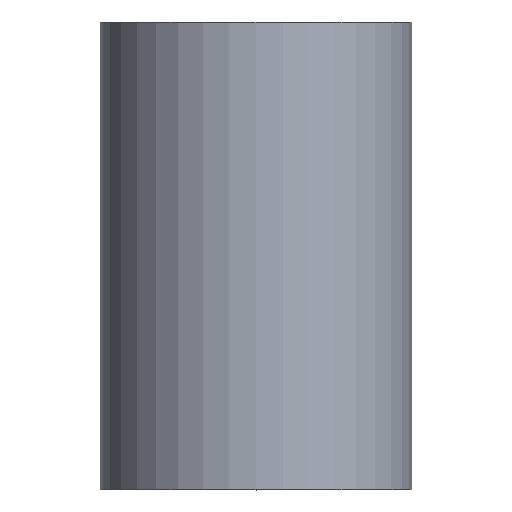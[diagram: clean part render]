
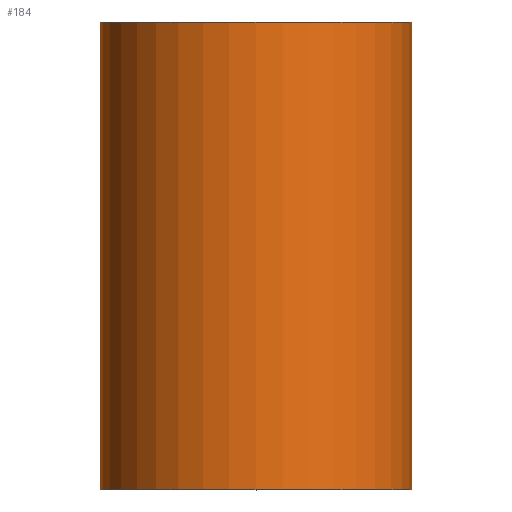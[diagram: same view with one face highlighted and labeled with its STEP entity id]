
A CAD part, top view. The second image highlights one B-rep face of the part: STEP entity #184.
In plain terms, the highlighted cylindrical face has radius 2 mm (diameter 4 mm), a partial arc.
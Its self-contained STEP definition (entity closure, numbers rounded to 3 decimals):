
#3 = EDGE_CURVE ( 'NONE', #272, #129, #59, .T. ) ;
#4 = CARTESIAN_POINT ( 'NONE',  ( 0., 0., 0. ) ) ;
#15 = CYLINDRICAL_SURFACE ( 'NONE', #280, 2. ) ;
#16 = VERTEX_POINT ( 'NONE', #169 ) ;
#23 = DIRECTION ( 'NONE',  ( -1., 0., 0. ) ) ;
#34 = CARTESIAN_POINT ( 'NONE',  ( -2., 0., 0. ) ) ;
#43 = AXIS2_PLACEMENT_3D ( 'NONE', #96, #160, #23 ) ;
#54 = DIRECTION ( 'NONE',  ( 0., 1., 0. ) ) ;
#59 = LINE ( 'NONE', #100, #170 ) ;
#69 = EDGE_CURVE ( 'NONE', #16, #90, #112, .T. ) ;
#89 = FACE_OUTER_BOUND ( 'NONE', #181, .T. ) ;
#90 = VERTEX_POINT ( 'NONE', #142 ) ;
#96 = CARTESIAN_POINT ( 'NONE',  ( 0., 6., 0. ) ) ;
#98 = DIRECTION ( 'NONE',  ( 0., 1., 0. ) ) ;
#100 = CARTESIAN_POINT ( 'NONE',  ( 2., 0., 0. ) ) ;
#112 = LINE ( 'NONE', #34, #124 ) ;
#124 = VECTOR ( 'NONE', #241, 1000. ) ;
#129 = VERTEX_POINT ( 'NONE', #267 ) ;
#142 = CARTESIAN_POINT ( 'NONE',  ( -2., 6., 0. ) ) ;
#160 = DIRECTION ( 'NONE',  ( 0., 1., 0. ) ) ;
#163 = DIRECTION ( 'NONE',  ( -1., 0., 0. ) ) ;
#166 = CARTESIAN_POINT ( 'NONE',  ( 2., 0., 0. ) ) ;
#169 = CARTESIAN_POINT ( 'NONE',  ( -2., 0., 0. ) ) ;
#170 = VECTOR ( 'NONE', #98, 1000. ) ;
#181 = EDGE_LOOP ( 'NONE', ( #190, #191, #256, #279 ) ) ;
#184 = ADVANCED_FACE ( 'NONE', ( #89 ), #15, .T. ) ;
#188 = AXIS2_PLACEMENT_3D ( 'NONE', #4, #243, #163 ) ;
#190 = ORIENTED_EDGE ( 'NONE', *, *, #206, .T. ) ;
#191 = ORIENTED_EDGE ( 'NONE', *, *, #3, .T. ) ;
#206 = EDGE_CURVE ( 'NONE', #16, #272, #239, .T. ) ;
#217 = CARTESIAN_POINT ( 'NONE',  ( 0., 0., 0. ) ) ;
#239 = CIRCLE ( 'NONE', #188, 2. ) ;
#241 = DIRECTION ( 'NONE',  ( 0., 1., 0. ) ) ;
#243 = DIRECTION ( 'NONE',  ( 0., 1., 0. ) ) ;
#252 = EDGE_CURVE ( 'NONE', #90, #129, #255, .T. ) ;
#255 = CIRCLE ( 'NONE', #43, 2. ) ;
#256 = ORIENTED_EDGE ( 'NONE', *, *, #252, .F. ) ;
#267 = CARTESIAN_POINT ( 'NONE',  ( 2., 6., 0. ) ) ;
#272 = VERTEX_POINT ( 'NONE', #166 ) ;
#279 = ORIENTED_EDGE ( 'NONE', *, *, #69, .F. ) ;
#280 = AXIS2_PLACEMENT_3D ( 'NONE', #217, #54, #291 ) ;
#291 = DIRECTION ( 'NONE',  ( -1., 0., 0. ) ) ;
